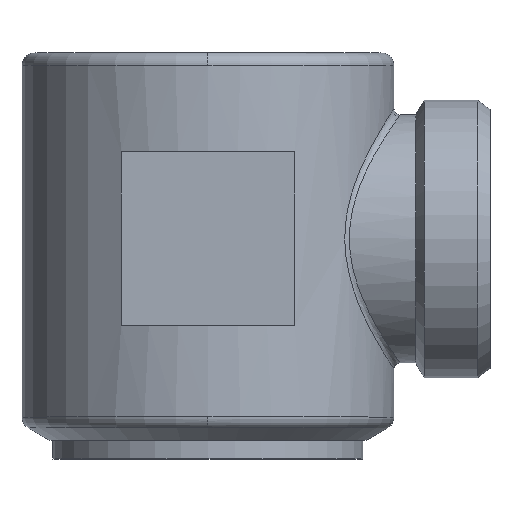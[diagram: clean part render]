
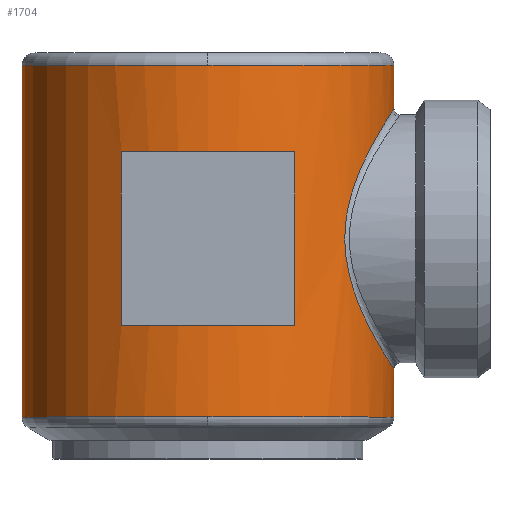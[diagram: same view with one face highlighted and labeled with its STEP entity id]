
A CAD part, top view. The second image highlights one B-rep face of the part: STEP entity #1704.
In plain terms, the highlighted cylindrical face has radius 30 mm (diameter 60 mm), a partial arc.
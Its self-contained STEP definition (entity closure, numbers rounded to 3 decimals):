
#246=CARTESIAN_POINT('',(0.,-13.997,30.0));
#247=VERTEX_POINT('',#246);
#272=CARTESIAN_POINT('',(30.0,-13.997,0.));
#273=VERTEX_POINT('',#272);
#281=CARTESIAN_POINT('',(0.0,-13.997,0.0));
#282=DIRECTION('',(0.0,-1.0,0.0));
#283=DIRECTION('',(1.0,0.0,0.0));
#284=AXIS2_PLACEMENT_3D('',#281,#282,#283);
#285=CIRCLE('',#284,30.0);
#286=EDGE_CURVE('',#273,#247,#285,.T.);
#296=CARTESIAN_POINT('',(30.0,-6.25,0.));
#297=VERTEX_POINT('',#296);
#298=CARTESIAN_POINT('',(30.0,-13.997,0.));
#299=DIRECTION('',(0.0,1.0,0.0));
#300=VECTOR('',#299,7.747);
#301=LINE('',#298,#300);
#302=EDGE_CURVE('',#273,#297,#301,.T.);
#305=CARTESIAN_POINT('',(-30.0,-13.997,0.0));
#306=VERTEX_POINT('',#305);
#314=CARTESIAN_POINT('',(-30.0,42.75,0.));
#315=VERTEX_POINT('',#314);
#316=CARTESIAN_POINT('',(-30.0,42.75,0.));
#317=DIRECTION('',(0.0,-1.0,0.0));
#318=VECTOR('',#317,56.747);
#319=LINE('',#316,#318);
#320=EDGE_CURVE('',#315,#306,#319,.T.);
#331=CARTESIAN_POINT('',(30.0,42.75,0.0));
#332=VERTEX_POINT('',#331);
#340=CARTESIAN_POINT('',(30.0,35.75,0.));
#341=VERTEX_POINT('',#340);
#342=CARTESIAN_POINT('',(30.0,35.75,0.));
#343=DIRECTION('',(0.0,1.0,0.0));
#344=VECTOR('',#343,7.0);
#345=LINE('',#342,#344);
#346=EDGE_CURVE('',#341,#332,#345,.T.);
#467=CARTESIAN_POINT('',(0.,42.75,30.0));
#468=VERTEX_POINT('',#467);
#476=CARTESIAN_POINT('',(0.0,42.75,0.0));
#477=DIRECTION('',(0.0,1.0,0.0));
#478=DIRECTION('',(-1.0,0.0,0.0));
#479=AXIS2_PLACEMENT_3D('',#476,#477,#478);
#480=CIRCLE('',#479,30.0);
#481=EDGE_CURVE('',#468,#332,#480,.T.);
#1601=CARTESIAN_POINT('',(0.0,42.75,0.0));
#1602=DIRECTION('',(0.0,1.0,0.0));
#1603=DIRECTION('',(-1.0,0.0,0.0));
#1604=AXIS2_PLACEMENT_3D('',#1601,#1602,#1603);
#1605=CIRCLE('',#1604,30.0);
#1606=EDGE_CURVE('',#315,#468,#1605,.T.);
#1613=CARTESIAN_POINT('',(0.0,-17.75,0.0));
#1614=DIRECTION('',(0.0,1.0,0.0));
#1615=DIRECTION('',(1.0,0.0,0.0));
#1616=AXIS2_PLACEMENT_3D('',#1613,#1614,#1615);
#1617=CYLINDRICAL_SURFACE('',#1616,30.0);
#1618=ORIENTED_EDGE('',*,*,#302,.T.);
#1619=CARTESIAN_POINT('',(30.0,-6.25,0.));
#1620=CARTESIAN_POINT('',(30.0,-6.25,3.374));
#1621=CARTESIAN_POINT('',(29.39,-5.346,6.733));
#1622=CARTESIAN_POINT('',(27.296,-1.912,12.937));
#1623=CARTESIAN_POINT('',(25.694,0.819,15.66));
#1624=CARTESIAN_POINT('',(23.006,7.411,19.388));
#1625=CARTESIAN_POINT('',(21.978,11.341,20.42));
#1626=CARTESIAN_POINT('',(22.164,18.978,20.218));
#1627=CARTESIAN_POINT('',(23.165,22.505,19.177));
#1628=CARTESIAN_POINT('',(25.661,28.571,15.695));
#1629=CARTESIAN_POINT('',(27.155,31.164,13.172));
#1630=CARTESIAN_POINT('',(29.323,34.749,7.083));
#1631=CARTESIAN_POINT('',(30.,35.75,3.551));
#1632=CARTESIAN_POINT('',(30.0,35.75,0.));
#1633=B_SPLINE_CURVE_WITH_KNOTS('',3,(#1619,#1620,#1621,#1622,#1623,#1624,#1625,#1626,#1627,#1628,#1629,#1630,#1631,#1632),.UNSPECIFIED.,.F.,.U.,(4,2,2,2,2,2,4),(31.393,41.038,52.299,63.303,73.395,84.003,94.165),.UNSPECIFIED.);
#1634=EDGE_CURVE('',#341,#297,#1633,.F.);
#1635=ORIENTED_EDGE('',*,*,#1634,.F.);
#1636=ORIENTED_EDGE('',*,*,#346,.T.);
#1637=ORIENTED_EDGE('',*,*,#481,.F.);
#1638=ORIENTED_EDGE('',*,*,#1606,.F.);
#1639=ORIENTED_EDGE('',*,*,#320,.T.);
#1640=CARTESIAN_POINT('',(0.0,-13.997,0.0));
#1641=DIRECTION('',(0.0,-1.0,0.0));
#1642=DIRECTION('',(1.0,0.0,0.0));
#1643=AXIS2_PLACEMENT_3D('',#1640,#1641,#1642);
#1644=CIRCLE('',#1643,30.0);
#1645=EDGE_CURVE('',#247,#306,#1644,.T.);
#1646=ORIENTED_EDGE('',*,*,#1645,.F.);
#1647=ORIENTED_EDGE('',*,*,#286,.F.);
#1648=EDGE_LOOP('',(#1618,#1635,#1636,#1637,#1638,#1639,#1646,#1647));
#1649=FACE_OUTER_BOUND('',#1648,.T.);
#1650=CARTESIAN_POINT('',(-14.,0.75,26.533));
#1651=VERTEX_POINT('',#1650);
#1652=CARTESIAN_POINT('',(-14.,28.75,26.533));
#1653=VERTEX_POINT('',#1652);
#1654=CARTESIAN_POINT('',(-14.,0.75,26.533));
#1655=DIRECTION('',(0.0,1.0,0.0));
#1656=VECTOR('',#1655,28.0);
#1657=LINE('',#1654,#1656);
#1658=EDGE_CURVE('',#1651,#1653,#1657,.T.);
#1659=ORIENTED_EDGE('',*,*,#1658,.T.);
#1660=CARTESIAN_POINT('',(0.0,28.75,30.0));
#1661=VERTEX_POINT('',#1660);
#1662=CARTESIAN_POINT('',(0.0,28.75,0.0));
#1663=DIRECTION('',(0.0,1.0,0.0));
#1664=DIRECTION('',(1.0,0.0,0.0));
#1665=AXIS2_PLACEMENT_3D('',#1662,#1663,#1664);
#1666=CIRCLE('',#1665,30.0);
#1667=EDGE_CURVE('',#1653,#1661,#1666,.T.);
#1668=ORIENTED_EDGE('',*,*,#1667,.T.);
#1669=CARTESIAN_POINT('',(14.,28.75,26.533));
#1670=VERTEX_POINT('',#1669);
#1671=CARTESIAN_POINT('',(0.0,28.75,0.0));
#1672=DIRECTION('',(0.0,1.0,0.0));
#1673=DIRECTION('',(1.0,0.0,0.0));
#1674=AXIS2_PLACEMENT_3D('',#1671,#1672,#1673);
#1675=CIRCLE('',#1674,30.0);
#1676=EDGE_CURVE('',#1661,#1670,#1675,.T.);
#1677=ORIENTED_EDGE('',*,*,#1676,.T.);
#1678=CARTESIAN_POINT('',(14.,0.75,26.533));
#1679=VERTEX_POINT('',#1678);
#1680=CARTESIAN_POINT('',(14.,28.75,26.533));
#1681=DIRECTION('',(0.0,-1.0,0.0));
#1682=VECTOR('',#1681,28.);
#1683=LINE('',#1680,#1682);
#1684=EDGE_CURVE('',#1670,#1679,#1683,.T.);
#1685=ORIENTED_EDGE('',*,*,#1684,.T.);
#1686=CARTESIAN_POINT('',(0.0,0.75,30.0));
#1687=VERTEX_POINT('',#1686);
#1688=CARTESIAN_POINT('',(0.0,0.75,0.0));
#1689=DIRECTION('',(0.0,-1.0,0.0));
#1690=DIRECTION('',(1.0,0.0,0.0));
#1691=AXIS2_PLACEMENT_3D('',#1688,#1689,#1690);
#1692=CIRCLE('',#1691,30.0);
#1693=EDGE_CURVE('',#1679,#1687,#1692,.T.);
#1694=ORIENTED_EDGE('',*,*,#1693,.T.);
#1695=CARTESIAN_POINT('',(0.0,0.75,0.0));
#1696=DIRECTION('',(0.0,-1.0,0.0));
#1697=DIRECTION('',(1.0,0.0,0.0));
#1698=AXIS2_PLACEMENT_3D('',#1695,#1696,#1697);
#1699=CIRCLE('',#1698,30.0);
#1700=EDGE_CURVE('',#1687,#1651,#1699,.T.);
#1701=ORIENTED_EDGE('',*,*,#1700,.T.);
#1702=EDGE_LOOP('',(#1659,#1668,#1677,#1685,#1694,#1701));
#1703=FACE_BOUND('',#1702,.T.);
#1704=ADVANCED_FACE('',(#1649,#1703),#1617,.T.);
